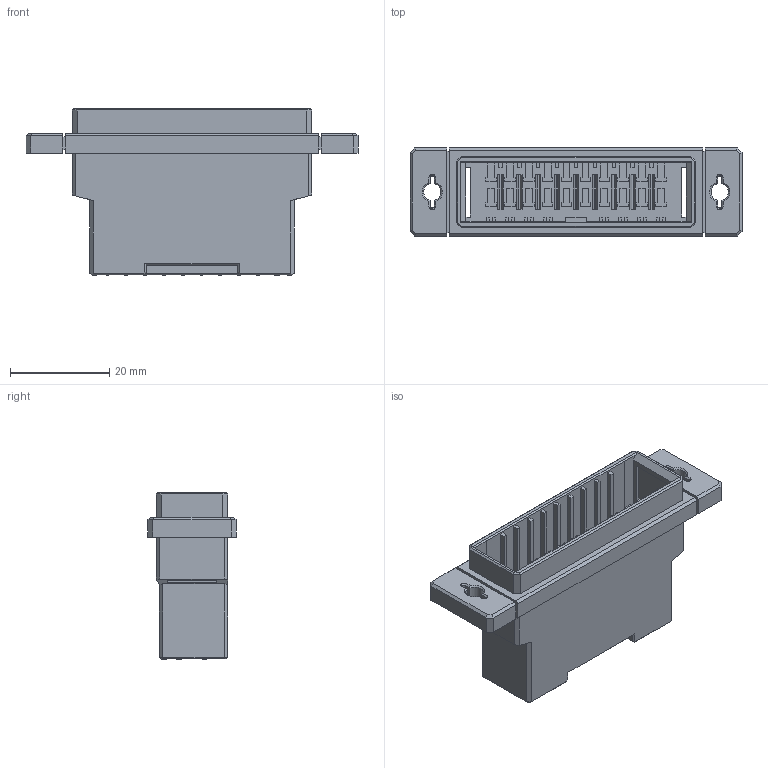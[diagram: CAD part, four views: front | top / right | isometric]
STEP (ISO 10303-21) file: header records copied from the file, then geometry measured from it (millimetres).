
FILE_DESCRIPTION (( 'STEP AP203' ), '1' );
FILE_NAME ('DK-3100D-20P.STEP', '2024-05-15T09:17:53', ( '' ), ( '' ), 'SwSTEP 2.0', 'SolidWorks 2018', '' );
FILE_SCHEMA (( 'CONFIG_CONTROL_DESIGN' ));
Length unit declared in the file: millimetre
Products named in the file (1): DK-3100D-20P
Bounding box: 67 x 17.78 x 33.7 mm (x, y, z)
Volume: 13804.4 mm3; surface area: 9922.1 mm2
Topology: 1 solids, 1 shells, 1830 faces, 4976 edges, 3262 vertices
Faces by surface type: plane 1384, bspline 426, cylinder 12, cone 8
Entity records: 69141 total; most frequent: CARTESIAN_POINT 26051, ORIENTED_EDGE 9952, DIRECTION 6858, EDGE_CURVE 4976, LINE 3984, VECTOR 3984, VERTEX_POINT 3262, EDGE_LOOP 1952
